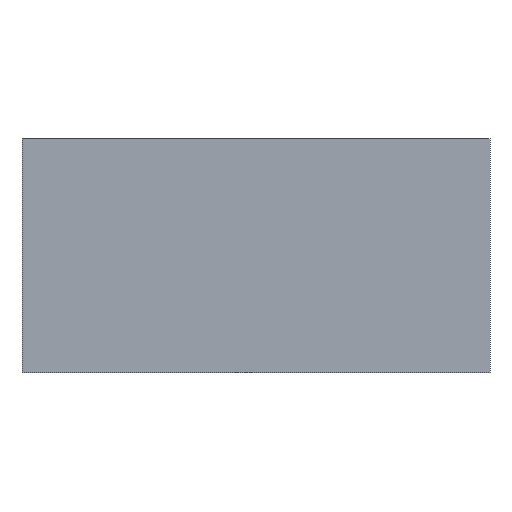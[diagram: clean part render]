
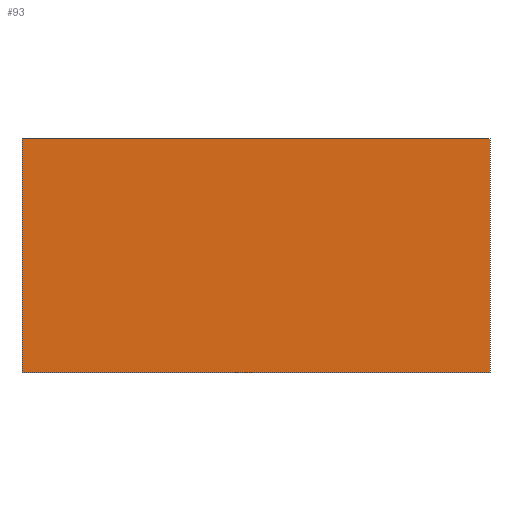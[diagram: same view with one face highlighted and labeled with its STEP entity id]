
A CAD part, front view. The second image highlights one B-rep face of the part: STEP entity #93.
In plain terms, the highlighted planar face has unit normal (0, 1, 0).
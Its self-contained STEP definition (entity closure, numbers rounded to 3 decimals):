
#1 = DIRECTION ( 'NONE',  ( 0., 0., -1. ) ) ;
#2 = CARTESIAN_POINT ( 'NONE',  ( -150., 0., 75. ) ) ;
#3 = DIRECTION ( 'NONE',  ( 0., 0., 1. ) ) ;
#6 = CARTESIAN_POINT ( 'NONE',  ( 150., 0., -75. ) ) ;
#13 = DIRECTION ( 'NONE',  ( 1., 0., 0. ) ) ;
#14 = DIRECTION ( 'NONE',  ( 0., 1., 0. ) ) ;
#22 = EDGE_CURVE ( 'NONE', #56, #103, #90, .T. ) ;
#26 = DIRECTION ( 'NONE',  ( 0., 0., 1. ) ) ;
#28 = EDGE_CURVE ( 'NONE', #62, #36, #76, .T. ) ;
#36 = VERTEX_POINT ( 'NONE', #6 ) ;
#43 = VECTOR ( 'NONE', #78, 1000. ) ;
#45 = ORIENTED_EDGE ( 'NONE', *, *, #22, .T. ) ;
#46 = CARTESIAN_POINT ( 'NONE',  ( -150., 0., -75. ) ) ;
#51 = ORIENTED_EDGE ( 'NONE', *, *, #83, .T. ) ;
#56 = VERTEX_POINT ( 'NONE', #124 ) ;
#58 = CARTESIAN_POINT ( 'NONE',  ( 0., 0., 0. ) ) ;
#61 = VECTOR ( 'NONE', #1, 1000. ) ;
#62 = VERTEX_POINT ( 'NONE', #87 ) ;
#63 = EDGE_CURVE ( 'NONE', #36, #56, #125, .T. ) ;
#72 = VECTOR ( 'NONE', #3, 1000. ) ;
#76 = LINE ( 'NONE', #121, #61 ) ;
#78 = DIRECTION ( 'NONE',  ( -1., 0., 0. ) ) ;
#83 = EDGE_CURVE ( 'NONE', #103, #62, #86, .T. ) ;
#84 = AXIS2_PLACEMENT_3D ( 'NONE', #58, #14, #26 ) ;
#85 = ORIENTED_EDGE ( 'NONE', *, *, #63, .T. ) ;
#86 = LINE ( 'NONE', #117, #115 ) ;
#87 = CARTESIAN_POINT ( 'NONE',  ( 150., 0., 75. ) ) ;
#88 = FACE_OUTER_BOUND ( 'NONE', #129, .T. ) ;
#89 = ORIENTED_EDGE ( 'NONE', *, *, #28, .T. ) ;
#90 = LINE ( 'NONE', #107, #72 ) ;
#93 = ADVANCED_FACE ( 'NONE', ( #88 ), #99, .T. ) ;
#99 = PLANE ( 'NONE',  #84 ) ;
#103 = VERTEX_POINT ( 'NONE', #2 ) ;
#107 = CARTESIAN_POINT ( 'NONE',  ( -150., 0., -75. ) ) ;
#115 = VECTOR ( 'NONE', #13, 1000. ) ;
#117 = CARTESIAN_POINT ( 'NONE',  ( -150., 0., 75. ) ) ;
#121 = CARTESIAN_POINT ( 'NONE',  ( 150., 0., -75. ) ) ;
#124 = CARTESIAN_POINT ( 'NONE',  ( -150., 0., -75. ) ) ;
#125 = LINE ( 'NONE', #46, #43 ) ;
#129 = EDGE_LOOP ( 'NONE', ( #89, #85, #45, #51 ) ) ;
